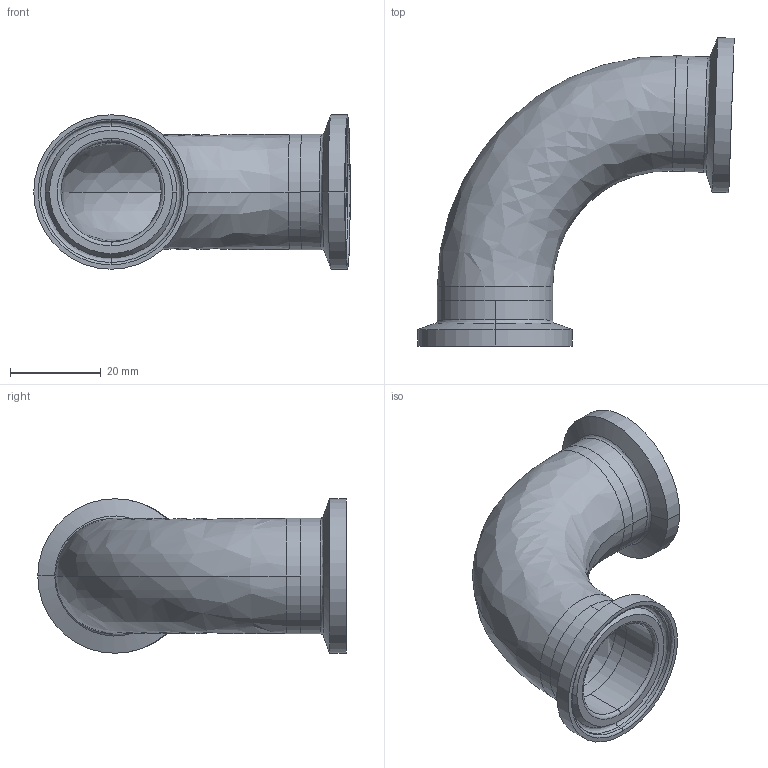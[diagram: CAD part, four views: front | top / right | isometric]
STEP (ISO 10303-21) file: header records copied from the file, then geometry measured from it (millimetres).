
FILE_DESCRIPTION (( 'STEP AP214' ), '1' );
FILE_NAME ('TEG2C926L1.0-.._Type A.STEP', '2016-05-22T11:35:08', ( 'eran' ), ( '' ), 'SwSTEP 2.0', 'SolidWorks 2016', '' );
FILE_SCHEMA (( 'AUTOMOTIVE_DESIGN' ));
Length unit declared in the file: millimetre
Products named in the file (1): TEG2C926L1.0-.._Type A
Bounding box: 69.67 x 67.92 x 34.01 mm (x, y, z)
Volume: 13269.8 mm3; surface area: 15582.4 mm2
Topology: 3 solids, 3 shells, 60 faces, 134 edges, 82 vertices
Faces by surface type: cylinder 24, bspline 20, plane 8, cone 8
Entity records: 1980 total; most frequent: CARTESIAN_POINT 601, DIRECTION 302, ORIENTED_EDGE 268, AXIS2_PLACEMENT_3D 135, EDGE_CURVE 134, CIRCLE 94, VERTEX_POINT 82, EDGE_LOOP 68
